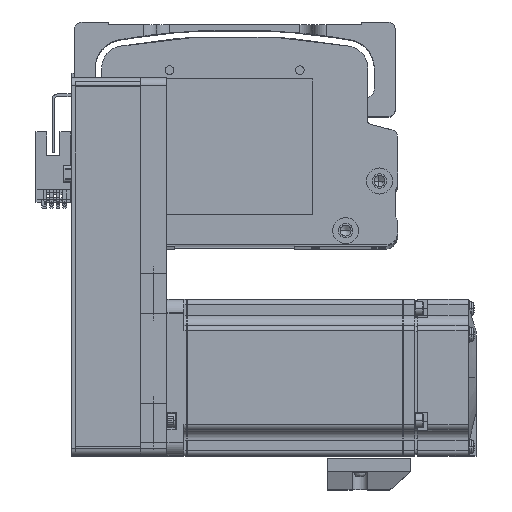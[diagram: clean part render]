
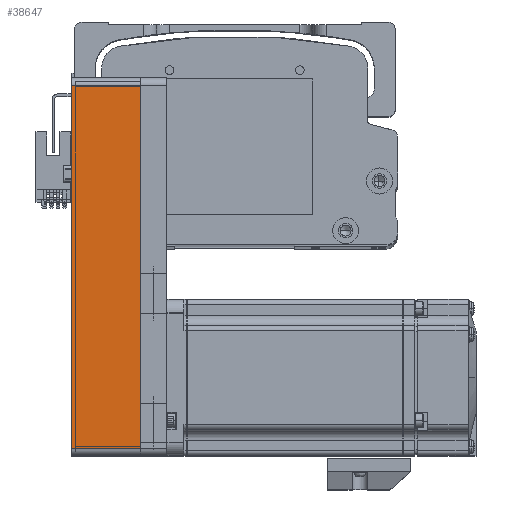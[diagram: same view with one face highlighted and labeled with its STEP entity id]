
A CAD part, top view. The second image highlights one B-rep face of the part: STEP entity #38647.
In plain terms, the highlighted planar face has unit normal (0, 0, 1) as drawn and (0, 1, 0) by its records, which use the part's own axes.
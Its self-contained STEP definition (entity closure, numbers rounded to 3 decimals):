
#1693 = CARTESIAN_POINT ( 'NONE',  ( 69.5, 30., 0. ) ) ;
#2447 = CARTESIAN_POINT ( 'NONE',  ( 69.5, 30., 26.5 ) ) ;
#5673 = CARTESIAN_POINT ( 'NONE',  ( -69.5, 30., 26.5 ) ) ;
#6600 = LINE ( 'NONE', #5673, #25519 ) ;
#6770 = VERTEX_POINT ( 'NONE', #73711 ) ;
#7261 = VECTOR ( 'NONE', #59730, 1000. ) ;
#9285 = LINE ( 'NONE', #40027, #74954 ) ;
#9558 = EDGE_CURVE ( 'NONE', #6770, #35722, #6600, .T. ) ;
#11342 = ORIENTED_EDGE ( 'NONE', *, *, #79633, .T. ) ;
#24193 = LINE ( 'NONE', #2447, #7261 ) ;
#25519 = VECTOR ( 'NONE', #62974, 1000. ) ;
#30725 = DIRECTION ( 'NONE',  ( -1., 0., 0. ) ) ;
#32281 = FACE_OUTER_BOUND ( 'NONE', #77376, .T. ) ;
#33911 = DIRECTION ( 'NONE',  ( -1., 0., 0. ) ) ;
#35722 = VERTEX_POINT ( 'NONE', #49714 ) ;
#36136 = VECTOR ( 'NONE', #30725, 1000. ) ;
#38012 = CARTESIAN_POINT ( 'NONE',  ( 72.5, 30., 26.5 ) ) ;
#38647 = ADVANCED_FACE ( 'NONE', ( #32281 ), #75799, .F. ) ;
#39157 = EDGE_CURVE ( 'NONE', #51720, #6770, #53029, .T. ) ;
#40027 = CARTESIAN_POINT ( 'NONE',  ( 72.5, 30., 26.5 ) ) ;
#43472 = CARTESIAN_POINT ( 'NONE',  ( 72.5, 30., 0. ) ) ;
#44395 = DIRECTION ( 'NONE',  ( 1., 0., 0. ) ) ;
#44491 = CARTESIAN_POINT ( 'NONE',  ( 69.5, 30., 26.5 ) ) ;
#49714 = CARTESIAN_POINT ( 'NONE',  ( -69.5, 30., 26.5 ) ) ;
#51695 = AXIS2_PLACEMENT_3D ( 'NONE', #38012, #82506, #44395 ) ;
#51720 = VERTEX_POINT ( 'NONE', #1693 ) ;
#53029 = LINE ( 'NONE', #43472, #36136 ) ;
#55172 = EDGE_CURVE ( 'NONE', #67971, #35722, #9285, .T. ) ;
#59730 = DIRECTION ( 'NONE',  ( 0., 0., -1. ) ) ;
#62254 = ORIENTED_EDGE ( 'NONE', *, *, #55172, .F. ) ;
#62974 = DIRECTION ( 'NONE',  ( 0., 0., 1. ) ) ;
#67443 = ORIENTED_EDGE ( 'NONE', *, *, #39157, .T. ) ;
#67971 = VERTEX_POINT ( 'NONE', #44491 ) ;
#73711 = CARTESIAN_POINT ( 'NONE',  ( -69.5, 30., 0. ) ) ;
#74954 = VECTOR ( 'NONE', #33911, 1000. ) ;
#75799 = PLANE ( 'NONE',  #51695 ) ;
#75981 = ORIENTED_EDGE ( 'NONE', *, *, #9558, .T. ) ;
#77376 = EDGE_LOOP ( 'NONE', ( #67443, #75981, #62254, #11342 ) ) ;
#79633 = EDGE_CURVE ( 'NONE', #67971, #51720, #24193, .T. ) ;
#82506 = DIRECTION ( 'NONE',  ( 0., -1., 0. ) ) ;
